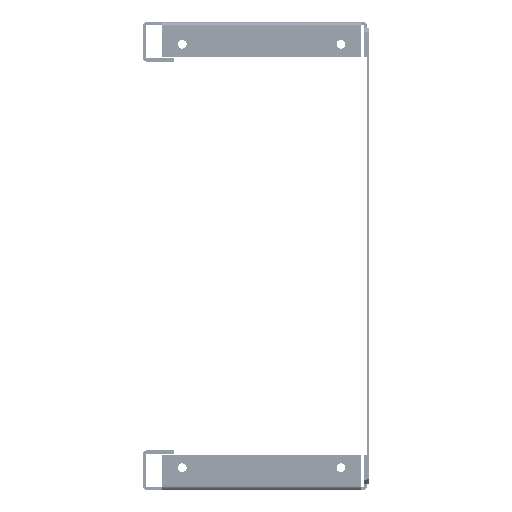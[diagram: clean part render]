
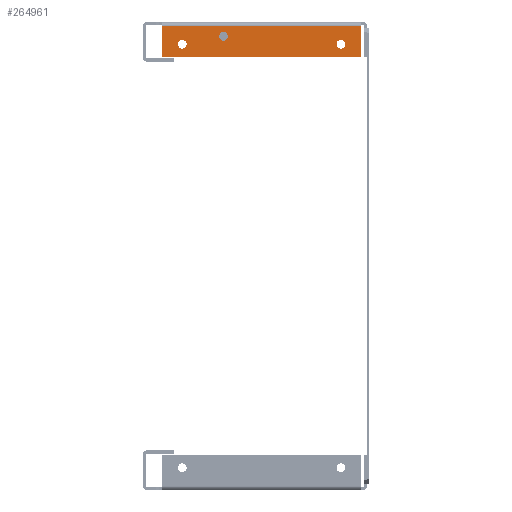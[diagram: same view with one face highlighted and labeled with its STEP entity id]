
A CAD part, left-side view. The second image highlights one B-rep face of the part: STEP entity #264961.
In plain terms, the highlighted planar face has unit normal (-1, 0, 0).
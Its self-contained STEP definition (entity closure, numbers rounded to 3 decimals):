
#156176=CARTESIAN_POINT(' ',(-695.,56.25,-22.));
#156177=VERTEX_POINT(' ',#156176);
#156191=CARTESIAN_POINT(' ',(-695.,56.25,-22.));
#156196=DIRECTION(' ',(0.,0.,1.));
#156201=VECTOR(' ',#156196,1.);
#156206=LINE('',#156191,#156201);
#156211=CARTESIAN_POINT(' ',(-695.,56.25,-2.6));
#156212=VERTEX_POINT(' ',#156211);
#156216=EDGE_CURVE(' ',#156177,#156212,#156206,.T.);
#156361=CARTESIAN_POINT(' ',(-695.,-68.75,-2.6));
#156366=DIRECTION(' ',(0.,1.,0.));
#156371=VECTOR(' ',#156366,1.);
#156376=LINE('',#156361,#156371);
#156381=CARTESIAN_POINT(' ',(-695.,-68.75,-2.6));
#156382=VERTEX_POINT(' ',#156381);
#156386=EDGE_CURVE(' ',#156382,#156212,#156376,.T.);
#156481=CARTESIAN_POINT(' ',(-695.,-68.75,-2.6));
#156486=DIRECTION(' ',(0.,0.,-1.));
#156491=VECTOR(' ',#156486,1.);
#156496=LINE('',#156481,#156491);
#156501=CARTESIAN_POINT(' ',(-695.,-68.75,-22.));
#156502=VERTEX_POINT(' ',#156501);
#156506=EDGE_CURVE(' ',#156382,#156502,#156496,.T.);
#264576=CARTESIAN_POINT(' ',(-695.,-68.75,-22.));
#264581=DIRECTION(' ',(0.,1.,0.));
#264586=VECTOR(' ',#264581,1.);
#264591=LINE('',#264576,#264586);
#264596=EDGE_CURVE(' ',#156502,#156177,#264591,.T.);
#264636=DIRECTION(' ',(-1.,0.,0.));
#264641=CARTESIAN_POINT(' ',(-695.,-68.75,-22.));
#264646=DIRECTION(' ',(0.,0.,1.));
#264651=AXIS2_PLACEMENT_3D(' ',#264641,#264636,#264646);
#264656=PLANE('NONE',#264651);
#264661=ORIENTED_EDGE(' ',*,*,#264596,.F.);
#264666=ORIENTED_EDGE(' ',*,*,#156506,.F.);
#264671=ORIENTED_EDGE(' ',*,*,#156386,.T.);
#264676=ORIENTED_EDGE(' ',*,*,#156216,.F.);
#264681=EDGE_LOOP(' ',(#264661,#264666,#264671,#264676));
#264686=FACE_OUTER_BOUND(' ',#264681,.T.);
#264691=CARTESIAN_POINT(' ',(-695.,-56.25,-14.));
#264696=DIRECTION(' ',(-1.,-0.,0.));
#264701=DIRECTION(' ',(0.,0.,1.));
#264706=AXIS2_PLACEMENT_3D(' ',#264691,#264696,#264701);
#264711=CIRCLE('',#264706,2.75);
#264716=CARTESIAN_POINT(' ',(-695.,-56.25,-11.25));
#264717=VERTEX_POINT(' ',#264716);
#264721=CARTESIAN_POINT(' ',(-695.,-56.25,-16.75));
#264722=VERTEX_POINT(' ',#264721);
#264726=EDGE_CURVE(' ',#264717,#264722,#264711,.T.);
#264731=ORIENTED_EDGE(' ',*,*,#264726,.F.);
#264736=CARTESIAN_POINT(' ',(-695.,-56.25,-14.));
#264741=DIRECTION(' ',(-1.,0.,0.));
#264746=DIRECTION(' ',(0.,0.,-1.));
#264751=AXIS2_PLACEMENT_3D(' ',#264736,#264741,#264746);
#264756=CIRCLE('',#264751,2.75);
#264761=EDGE_CURVE(' ',#264722,#264717,#264756,.T.);
#264766=ORIENTED_EDGE(' ',*,*,#264761,.F.);
#264771=EDGE_LOOP(' ',(#264731,#264766));
#264776=FACE_BOUND(' ',#264771,.T.);
#264781=CARTESIAN_POINT(' ',(-695.,43.75,-14.));
#264786=DIRECTION(' ',(-1.,-0.,0.));
#264791=DIRECTION(' ',(0.,0.,1.));
#264796=AXIS2_PLACEMENT_3D(' ',#264781,#264786,#264791);
#264801=CIRCLE('',#264796,2.75);
#264806=CARTESIAN_POINT(' ',(-695.,43.75,-11.25));
#264807=VERTEX_POINT(' ',#264806);
#264811=CARTESIAN_POINT(' ',(-695.,43.75,-16.75));
#264812=VERTEX_POINT(' ',#264811);
#264816=EDGE_CURVE(' ',#264807,#264812,#264801,.T.);
#264821=ORIENTED_EDGE(' ',*,*,#264816,.F.);
#264826=CARTESIAN_POINT(' ',(-695.,43.75,-14.));
#264831=DIRECTION(' ',(-1.,0.,0.));
#264836=DIRECTION(' ',(0.,0.,-1.));
#264841=AXIS2_PLACEMENT_3D(' ',#264826,#264831,#264836);
#264846=CIRCLE('',#264841,2.75);
#264851=EDGE_CURVE(' ',#264812,#264807,#264846,.T.);
#264856=ORIENTED_EDGE(' ',*,*,#264851,.F.);
#264861=EDGE_LOOP(' ',(#264821,#264856));
#264866=FACE_BOUND(' ',#264861,.T.);
#264871=CARTESIAN_POINT(' ',(-695.,17.75,-9.));
#264876=DIRECTION(' ',(-1.,0.,-0.));
#264881=DIRECTION(' ',(0.,-1.,0.));
#264886=AXIS2_PLACEMENT_3D(' ',#264871,#264876,#264881);
#264891=CIRCLE('',#264886,2.75);
#264896=CARTESIAN_POINT(' ',(-695.,15.,-9.));
#264897=VERTEX_POINT(' ',#264896);
#264901=CARTESIAN_POINT(' ',(-695.,20.5,-9.));
#264902=VERTEX_POINT(' ',#264901);
#264906=EDGE_CURVE(' ',#264897,#264902,#264891,.T.);
#264911=ORIENTED_EDGE(' ',*,*,#264906,.F.);
#264916=CARTESIAN_POINT(' ',(-695.,17.75,-9.));
#264921=DIRECTION(' ',(-1.,0.,0.));
#264926=DIRECTION(' ',(0.,1.,0.));
#264931=AXIS2_PLACEMENT_3D(' ',#264916,#264921,#264926);
#264936=CIRCLE('',#264931,2.75);
#264941=EDGE_CURVE(' ',#264902,#264897,#264936,.T.);
#264946=ORIENTED_EDGE(' ',*,*,#264941,.F.);
#264951=EDGE_LOOP(' ',(#264911,#264946));
#264956=FACE_BOUND(' ',#264951,.T.);
#264961=ADVANCED_FACE('NONE',(#264686,#264776,#264866,#264956),#264656,.T.);
